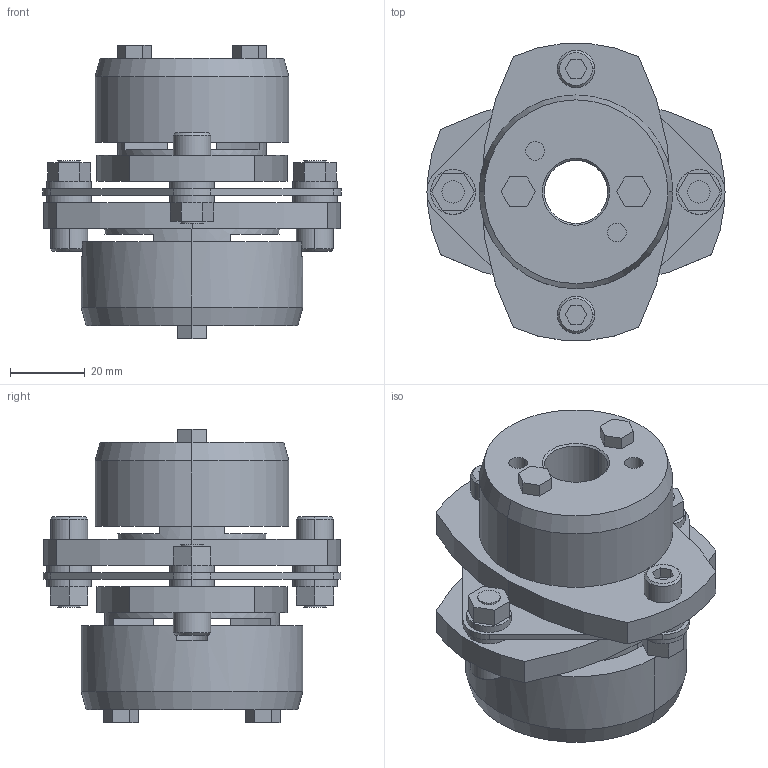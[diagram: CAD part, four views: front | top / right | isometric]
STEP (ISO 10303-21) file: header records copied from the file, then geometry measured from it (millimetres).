
FILE_DESCRIPTION((''),'2;1');
FILE_NAME('LCS-80T7-17×24.stp','2011-09-12T14:59:17',(''),(''),'AutoCAD STEP 2000i','AutoCAD 2000i',', , ');
FILE_SCHEMA(('CONFIG_CONTROL_DESIGN'));
Length unit declared in the file: millimetre
Products named in the file (8): LCS-80T7-17×24; 忣兜1; LC80T7-T024; LC80T7-T022; LC80T7-T019; LC80T7-T017-1; LC80T7-T017; LCS80-ITA
Assembly tree (7 placements, depth 2):
  LCS-80T7-17×24
    忣兜1
    LC80T7-T024
    LC80T7-T022
    LC80T7-T019
    LC80T7-T017-1
    LC80T7-T017
    LCS80-ITA
Bounding box: 80 x 79.95 x 78.75 mm (x, y, z)
Volume: 152492.2 mm3; surface area: 42691.2 mm2
Topology: 1 solids, 1 shells, 222 faces, 544 edges, 356 vertices
Faces by surface type: plane 120, cylinder 82, cone 20
Entity records: 6801 total; most frequent: DIRECTION 1208, CARTESIAN_POINT 1130, ORIENTED_EDGE 1088, EDGE_CURVE 544, AXIS2_PLACEMENT_3D 434, VERTEX_POINT 356, VECTOR 340, LINE 340
